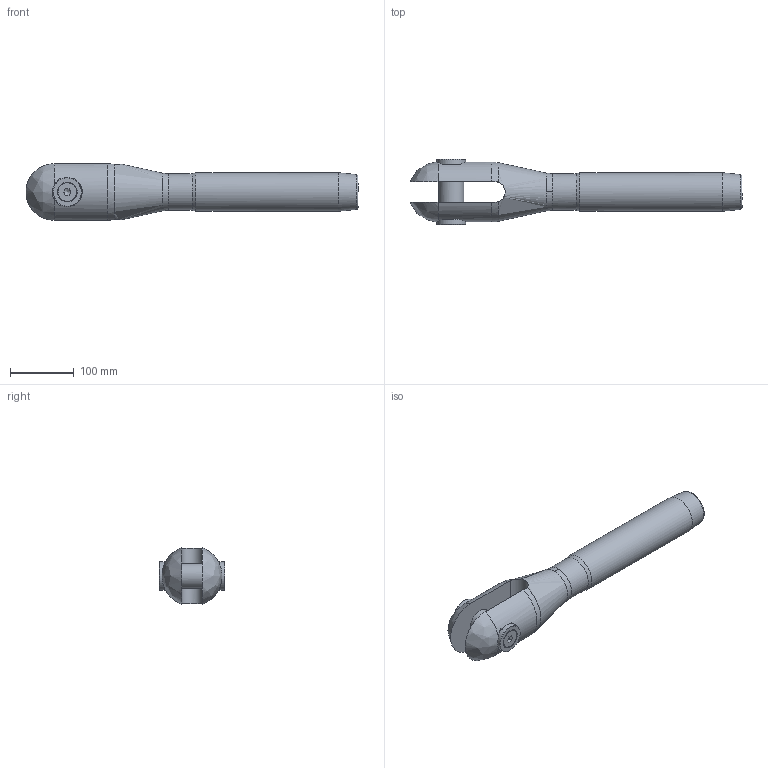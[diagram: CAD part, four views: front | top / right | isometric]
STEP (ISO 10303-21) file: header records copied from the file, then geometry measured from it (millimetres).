
FILE_DESCRIPTION(/* description */ (''),/* implementation_level */ '2;1');
FILE_NAME(/* name */ 'MAC 28_1,4418',/* time_stamp */ '2023-05-23T16:54:55+02:00',/* author */ (''),/* organization */ (''),/* preprocessor_version */ 'ST-DEVELOPER v16.5',/* originating_system */ 'Rhino 7.22',/* authorisation */ '');
FILE_SCHEMA (('CONFIG_CONTROL_DESIGN'));
Length unit declared in the file: millimetre
Products named in the file (1): Document
Bounding box: 520.11 x 102.59 x 88.39 mm (x, y, z)
Volume: 1709021.8 mm3; surface area: 164982.6 mm2
Topology: 6 solids, 6 shells, 75 faces, 210 edges, 145 vertices
Faces by surface type: plane 29, bspline 24, cylinder 22
Full cylindrical faces by diameter (mm): 13.835 x2, 16 x2, 17 x2, 29.01 x2, 39 x1, 41 x2, 45 x2, 57.2 x1, 60.5 x1
Entity records: 3162 total; most frequent: CARTESIAN_POINT 1815, ORIENTED_EDGE 412, EDGE_CURVE 206, VERTEX_POINT 145, EDGE_LOOP 85, B_SPLINE_CURVE_WITH_KNOTS 84, ADVANCED_FACE 75, FACE_OUTER_BOUND 75
